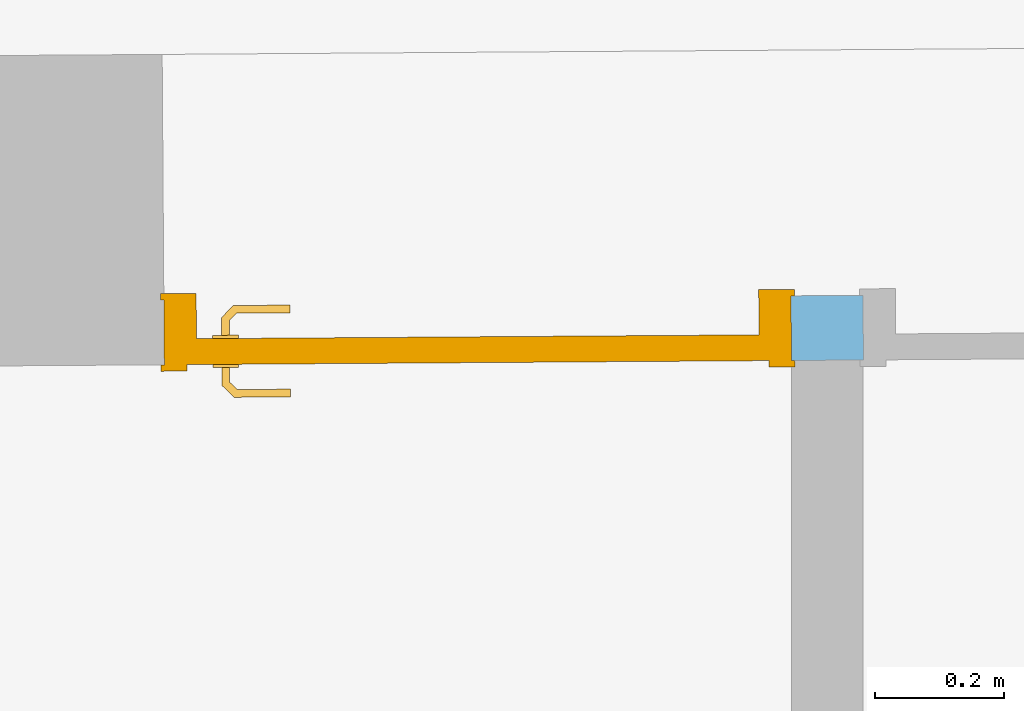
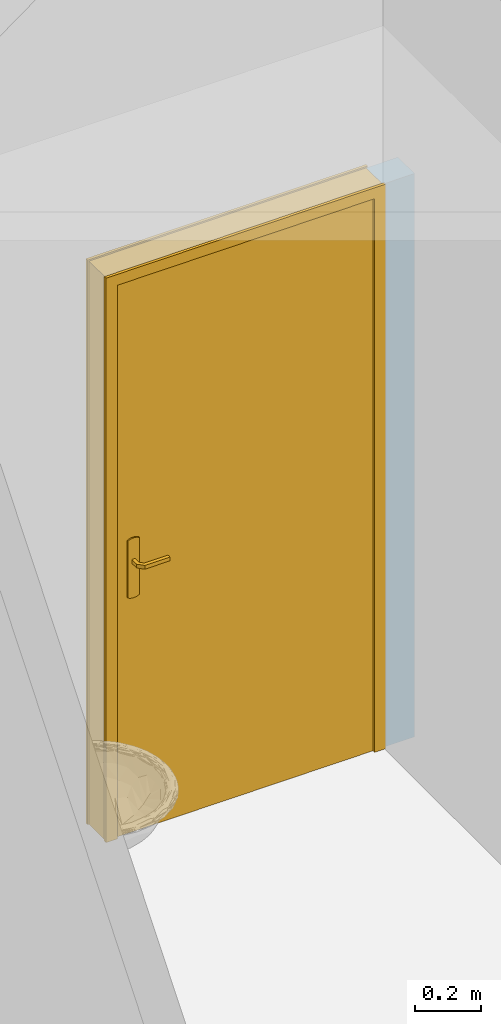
# One storey, part 41 of 128: 1 door, 2 openings, plus 1 element that does not belong to this part.
"""IFC2X3 building model written with IfcOpenShell, lengths in metres."""

import ifcopenshell
import ifcopenshell.guid

model = None  # the IFC model being written
_history = None  # IfcOwnerHistory: only IFC2X3 demands one
_inside = {}  # id of a spatial element -> (the spatial element, [elements in it])
_under = {}  # id of a project, library or spatial element -> (it, [spatial elements below it])
_declared = {}  # id of a project -> (the project, [libraries it declares])
_typed = {}  # id of a type object -> (the type object, [elements of that type])
_made_of = {}  # id of a material, layer set ... -> (it, [elements and type objects made of it])


def new_model(schema):
    """Start an empty IFC model of exactly this schema.

    Asked for "IFC4X3", IfcOpenShell would pick the latest addendum, in which some entities
    have other attributes; the version numbers below select the first issue.
    IFC2X3 requires an IfcOwnerHistory on every rooted entity: one is made here for all.
    """
    global model, _history
    if schema == "IFC4X3":
        model = ifcopenshell.file(schema_version=(4, 3, 0, 0))
    else:
        model = ifcopenshell.file(schema=schema)
    _inside.clear()
    _under.clear()
    _declared.clear()
    _typed.clear()
    _made_of.clear()
    _history = None
    if model.schema == "IFC2X3":
        org = make("IfcOrganization", Name="unknown")
        user = make(
            "IfcPersonAndOrganization",
            ThePerson=make("IfcPerson", FamilyName="unknown"),
            TheOrganization=org,
        )
        app = make(
            "IfcApplication",
            ApplicationDeveloper=org,
            Version="unknown",
            ApplicationFullName="unknown",
            ApplicationIdentifier="unknown",
        )
        _history = make(
            "IfcOwnerHistory",
            OwningUser=user,
            OwningApplication=app,
            ChangeAction="ADDED",
            CreationDate=0,
        )
    return model


def make(cls, **values):
    """One entity of the class cls with the attributes given. An attribute that is None is left unset."""
    return model.create_entity(
        cls, **{name: value for name, value in values.items() if value is not None}
    )


def entity(cls, *values):
    """Any entity or typed value of the class cls, its attributes in the order of the schema. None: left unset."""
    e = model.create_entity(cls)
    for i, value in enumerate(values):
        if value is not None:
            e[i] = value
    return e


def rooted(cls, **values):
    """An entity with a GlobalId (a new one), such as an element, a storey or a relation."""
    return make(cls, GlobalId=ifcopenshell.guid.new(), OwnerHistory=_history, **values)


def si_unit(unit_type, name, prefix=None):
    """IfcSIUnit, for example si_unit("LENGTHUNIT", "METRE", prefix="MILLI")."""
    return make("IfcSIUnit", UnitType=unit_type, Prefix=prefix, Name=name)


def converted_unit(unit_type, name, factor, base, dimensions=None, offset=None):
    """IfcConversionBasedUnit, such as the inch: factor (a typed value) times the base unit."""
    return make(
        "IfcConversionBasedUnit"
        if offset is None
        else "IfcConversionBasedUnitWithOffset",
        ConversionOffset=offset,
        Dimensions=None
        if dimensions is None
        else entity("IfcDimensionalExponents", *dimensions),
        UnitType=unit_type,
        Name=name,
        ConversionFactor=make(
            "IfcMeasureWithUnit", ValueComponent=factor, UnitComponent=base
        ),
    )


def derived_unit(unit_type, elements):
    """IfcDerivedUnit: a product of units, each with its exponent."""
    return make(
        "IfcDerivedUnit",
        Elements=[
            make("IfcDerivedUnitElement", Unit=unit, Exponent=power)
            for unit, power in elements
        ],
        UnitType=unit_type,
    )


def assignment(units):
    """IfcUnitAssignment: the units of a project."""
    return None if units is None else make("IfcUnitAssignment", Units=units)


def point(xyz):
    """IfcCartesianPoint."""
    return None if xyz is None else make("IfcCartesianPoint", Coordinates=xyz)


def direction(xyz):
    """IfcDirection."""
    return None if xyz is None else make("IfcDirection", DirectionRatios=xyz)


def frame(location, z_axis=None, x_axis=None):
    """IfcAxis2Placement3D, a coordinate frame: its origin and axes. An axis left out is left unset."""
    return make(
        "IfcAxis2Placement3D",
        Location=point(location),
        Axis=direction(z_axis),
        RefDirection=direction(x_axis),
    )


def frame_2d(location, x_axis=None):
    """IfcAxis2Placement2D, a coordinate frame in the plane: its origin and x axis."""
    return make(
        "IfcAxis2Placement2D", Location=point(location), RefDirection=direction(x_axis)
    )


def origin():
    """The frame at (0, 0, 0) with its axes left unset."""
    return frame((0.0, 0.0, 0.0))


def place(relative_to, where):
    """IfcLocalPlacement: puts the frame where relative to a parent placement (None: the world)."""
    return make(
        "IfcLocalPlacement", PlacementRelTo=relative_to, RelativePlacement=where
    )


def context(
    kind, dimensions, precision=None, world=None, true_north=None, identifier=None
):
    """IfcGeometricRepresentationContext, for example the 3D "Model" context."""
    return make(
        "IfcGeometricRepresentationContext",
        ContextIdentifier=identifier,
        ContextType=kind,
        CoordinateSpaceDimension=dimensions,
        Precision=precision,
        WorldCoordinateSystem=world,
        TrueNorth=true_north,
    )


def subcontext(parent, identifier, kind, view, scale=None):
    """IfcGeometricRepresentationSubContext, for example "Body" below "Model"."""
    return make(
        "IfcGeometricRepresentationSubContext",
        ContextIdentifier=identifier,
        ContextType=kind,
        ParentContext=parent,
        TargetScale=scale,
        TargetView=view,
    )


def project(units=None, contexts=None):
    """IfcProject with its units and contexts."""
    return rooted(
        "IfcProject",
        Name="project",
        RepresentationContexts=contexts,
        UnitsInContext=assignment(units),
    )


def spatial(cls, under=None, at=None, **own):
    """A site, building, storey or space (cls), placed at a placement, below another one or the project."""
    s = rooted(cls, ObjectPlacement=at, **own)
    if under is not None:
        _under.setdefault(under.id(), (under, []))[1].append(s)
    return s


def profile(cls, at=None, kind="AREA", **sizes):
    """A parametric profile (cls). Its sizes go by their IFC names, for example OverallWidth=200.0."""
    return make(cls, ProfileType=kind, Position=at, **sizes)


def rectangle(**sizes):
    """IfcRectangleProfileDef."""
    return profile("IfcRectangleProfileDef", **sizes)


def extrude(swept, where, along, depth):
    """IfcExtrudedAreaSolid: the profile swept, set in the frame where, extruded along a direction by depth."""
    return make(
        "IfcExtrudedAreaSolid",
        SweptArea=swept,
        Position=where,
        ExtrudedDirection=direction(along),
        Depth=depth,
    )


def faces_of(points, faces, orient=None, outer=None):
    """IfcFace entities. A face is a list of loops; a loop is a list of indices into points, from 0.

    orient and outer hold one flag for each loop. By default every Orientation is true, the
    first loop of a face is its IfcFaceOuterBound and the others are IfcFaceBound.
    """
    made = []
    for i, loops in enumerate(faces):
        bounds = []
        for j, loop in enumerate(loops):
            is_outer = j == 0 if outer is None else outer[i][j]
            bounds.append(
                make(
                    "IfcFaceOuterBound" if is_outer else "IfcFaceBound",
                    Bound=make("IfcPolyLoop", Polygon=[points[k] for k in loop]),
                    Orientation=True if orient is None else orient[i][j],
                )
            )
        made.append(make("IfcFace", Bounds=bounds))
    return made


def faceted_brep(points, faces, orient=None, outer=None, voids=None):
    """IfcFacetedBrep: a solid bounded by flat faces; with voids (closed shells), ...WithVoids."""
    shared = [point(p) for p in points]
    hull = make("IfcClosedShell", CfsFaces=faces_of(shared, faces, orient, outer))
    if voids is None:
        return make("IfcFacetedBrep", Outer=hull)
    return make(
        "IfcFacetedBrepWithVoids",
        Outer=hull,
        Voids=[
            make(cls, CfsFaces=faces_of(shared, fs, o, b)) for cls, fs, o, b in voids
        ],
    )


def shape(context_of_items, identifier, shape_type, items):
    """IfcShapeRepresentation: the items that make up one representation, for example the "Body"."""
    return make(
        "IfcShapeRepresentation",
        ContextOfItems=context_of_items,
        RepresentationIdentifier=identifier,
        RepresentationType=shape_type,
        Items=items,
    )


def source(mapping_origin, context_of_items, identifier, shape_type, items):
    """IfcRepresentationMap: a shape defined once, which mapped items show again and again."""
    return make(
        "IfcRepresentationMap",
        MappingOrigin=mapping_origin,
        MappedRepresentation=shape(context_of_items, identifier, shape_type, items),
    )


def transform(
    local_origin,
    x_axis=None,
    y_axis=None,
    z_axis=None,
    scale=None,
    scale2=None,
    scale3=None,
    uniform=True,
):
    """IfcCartesianTransformationOperator3D, or its non-uniform kind. x_axis, y_axis, z_axis: its Axis1, 2, 3."""
    if uniform:
        return make(
            "IfcCartesianTransformationOperator3D",
            Axis1=direction(x_axis),
            Axis2=direction(y_axis),
            LocalOrigin=point(local_origin),
            Scale=scale,
            Axis3=direction(z_axis),
        )
    return make(
        "IfcCartesianTransformationOperator3DnonUniform",
        Axis1=direction(x_axis),
        Axis2=direction(y_axis),
        LocalOrigin=point(local_origin),
        Scale=scale,
        Axis3=direction(z_axis),
        Scale2=scale2,
        Scale3=scale3,
    )


def mapped(mapping_source, mapping_target):
    """IfcMappedItem: shows the shape of a source again, moved by a transform."""
    return make(
        "IfcMappedItem", MappingSource=mapping_source, MappingTarget=mapping_target
    )


def material(Name=None, Category=None):
    """IfcMaterial."""
    return make("IfcMaterial", Name=Name, Category=Category)


def layer(
    of_material, thickness, ventilated=None, Name=None, Category=None, Priority=None
):
    """IfcMaterialLayer: one layer of a wall or slab, of a material (None: an air gap)."""
    return make(
        "IfcMaterialLayer",
        Material=of_material,
        LayerThickness=thickness,
        IsVentilated=ventilated,
        Name=Name,
        Category=Category,
        Priority=Priority,
    )


def layer_set(layers, Name=None):
    """IfcMaterialLayerSet."""
    return make("IfcMaterialLayerSet", MaterialLayers=layers, LayerSetName=Name)


def layer_usage(for_layer_set, set_direction, sense, offset, extent=None):
    """IfcMaterialLayerSetUsage: how a layer set lies in its element."""
    return make(
        "IfcMaterialLayerSetUsage",
        ForLayerSet=for_layer_set,
        LayerSetDirection=set_direction,
        DirectionSense=sense,
        OffsetFromReferenceLine=offset,
        ReferenceExtent=extent,
    )


def made_of(thing, what):
    """Note that an element or type object is made of a material, layer set ...; save() writes the relation."""
    if what is not None:
        _made_of.setdefault(what.id(), (what, []))[1].append(thing)
    return thing


def type_object(cls, material=None, **own):
    """A type object (cls), such as IfcWallType, which elements share."""
    return made_of(rooted(cls, **own), material)


def type_shapes(of_type, sources):
    """Give a type object the sources (RepresentationMaps) that its elements show as mapped items."""
    of_type.RepresentationMaps = sources


def element(
    cls,
    number,
    at=None,
    inside=None,
    cuts=None,
    type_object=None,
    material=None,
    context=None,
    identifier="Body",
    shape_type=None,
    held_by="IfcProductDefinitionShape",
    body=None,
    shapes=None,
    **own,
):
    """One element of the class cls, such as IfcWall. Its Tag is "e" and its number.

    at: its placement. inside: the storey or other place that contains it. cuts: it is an
    opening in that element (IfcRelVoidsElement). A single representation is given by context,
    identifier, shape_type and body (its items); several are given by shapes. held_by: the class
    of the entity that holds the representations. save() writes the other relations.
    """
    e = rooted(cls, Tag="e%d" % number, ObjectPlacement=at, **own)
    if body is not None:
        shapes = [shape(context, identifier, shape_type, body)]
    if shapes is not None:
        e.Representation = make(held_by, Representations=shapes)
    if inside is not None:
        _inside.setdefault(inside.id(), (inside, []))[1].append(e)
    if cuts is not None:
        rooted(
            "IfcRelVoidsElement", RelatingBuildingElement=cuts, RelatedOpeningElement=e
        )
    if type_object is not None:
        _typed.setdefault(type_object.id(), (type_object, []))[1].append(e)
    return made_of(e, material)


def fill(opening, filler):
    """IfcRelFillsElement: the door or window that sits in an opening."""
    return rooted(
        "IfcRelFillsElement",
        RelatingOpeningElement=opening,
        RelatedBuildingElement=filler,
    )


def aggregate(whole, parts):
    """IfcRelAggregates: a whole, such as a stair, and the parts it consists of."""
    return rooted("IfcRelAggregates", RelatingObject=whole, RelatedObjects=parts)


def save(model, path):
    """Write the relations noted so far, then the file.

    IfcRelAggregates (storeys below a building ...), IfcRelContainedInSpatialStructure (elements
    in a storey), IfcRelDefinesByType, IfcRelAssociatesMaterial and IfcRelDeclares: one each for
    every whole, place, type object, material and project.
    """
    for whole, parts in _under.values():
        aggregate(whole, parts)
    for where, things in _inside.values():
        rooted(
            "IfcRelContainedInSpatialStructure",
            RelatedElements=things,
            RelatingStructure=where,
        )
    for kind, things in _typed.values():
        rooted("IfcRelDefinesByType", RelatedObjects=things, RelatingType=kind)
    for what, things in _made_of.values():
        rooted("IfcRelAssociatesMaterial", RelatedObjects=things, RelatingMaterial=what)
    for by, libraries in _declared.values():
        rooted("IfcRelDeclares", RelatingContext=by, RelatedDefinitions=libraries)
    model.write(path)


model = new_model("IFC2X3")

# Units and contexts
model_context = context("Model", 3, precision=1e-05, world=origin(), true_north=direction((6.123031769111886e-17, 1.0)))
body_context = subcontext(model_context, "Body", "Model", "MODEL_VIEW")
ifc_project = project(units=[si_unit("LENGTHUNIT", "METRE"), si_unit("AREAUNIT", "SQUARE_METRE"), converted_unit("PLANEANGLEUNIT", "DEGREE", entity("IfcPlaneAngleMeasure", 0.017453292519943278), si_unit("PLANEANGLEUNIT", "RADIAN"), dimensions=[0, 0, 0, 0, 0, 0, 0]), derived_unit("THERMALTRANSMITTANCEUNIT", [(si_unit("MASSUNIT", "GRAM", prefix="KILO"), 1), (si_unit("THERMODYNAMICTEMPERATUREUNIT", "KELVIN"), -1), (si_unit("TIMEUNIT", "SECOND"), -3)])], contexts=[model_context])

# Site, building, storey
site_placement = place(None, origin())
site = spatial("IfcSite", under=ifc_project, at=site_placement, Name="Default", CompositionType="ELEMENT")
building_placement = place(site_placement, origin())
building = spatial("IfcBuilding", under=site, at=building_placement, CompositionType="ELEMENT")
storey_placement = place(building_placement, origin())
storey = spatial("IfcBuildingStorey", under=building, at=storey_placement, Name="00_RDC CAF", CompositionType="ELEMENT", Elevation=2.4982504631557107e-13)

# Wall, openings, door
ifc_material_1 = material(Name="ARC - Cloison")
ifc_layer = layer(ifc_material_1, 0.1)
ifc_layer_set = layer_set([ifc_layer], Name="Mur de base:Cl_Platre_100mm")
ifc_layer_usage = layer_usage(ifc_layer_set, "AXIS2", "NEGATIVE", 0.05)
wall_type = type_object("IfcWallType", Name="Mur de base:Cl_Platre_100mm", PredefinedType="STANDARD", material=ifc_layer_set)
wall_placement = place(storey_placement, frame((28.64714088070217, 129.95834739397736, 0.0), z_axis=(0.0, 0.0, 1.0), x_axis=(0.9999764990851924, 0.006855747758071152, 0.0)))
wall = element("IfcWallStandardCase", 1, at=wall_placement, inside=storey, type_object=wall_type, material=ifc_layer_usage, Name="Mur de base:Cl_Platre_100mm", ObjectType="Mur de base:Cl_Platre_100mm", context=body_context, shape_type="SweptSolid", body=[
    extrude(rectangle(XDim=2.0512205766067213, YDim=0.09999999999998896, at=frame_2d((0.05561028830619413, -2.185751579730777e-15), x_axis=(1.0, 0.0))), origin(), (0.0, 0.0, 1.0), 2.074999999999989),
])
opening_1_placement = place(wall_placement, frame((1.0812205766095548, 0.05000000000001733, 0.0)))
element("IfcOpeningElement", 2, at=opening_1_placement, cuts=wall, Name="P_Recouvrement_Simple:P_Int_Simple_Pleine_900x2040mm:1", ObjectType="Opening", context=body_context, shape_type="SweptSolid", body=[
    extrude(rectangle(XDim=2.07500000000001, YDim=0.9699999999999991, at=frame_2d((1.037500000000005, 0.48499999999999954), x_axis=(1.0, 0.0))), frame((0.0, 0.0, 0.0), z_axis=(0.0, -1.0, 0.0), x_axis=(0.0, 0.0, 1.0)), (0.0, 0.0, 1.0), 0.1),
])
opening_2_placement = place(wall_placement, frame((0.0, 0.05000000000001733, 0.0)))
opening_2 = element("IfcOpeningElement", 3, at=opening_2_placement, cuts=wall, Name="P_Recouvrement_Simple:P_Int_Simple_Pleine_900x2040mm:1", ObjectType="Opening", context=body_context, shape_type="SweptSolid", body=[
    extrude(rectangle(XDim=2.07500000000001, YDim=0.9699999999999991, at=frame_2d((1.037500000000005, 0.48499999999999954), x_axis=(1.0, 0.0))), frame((0.0, 0.0, 0.0), z_axis=(0.0, -1.0, 0.0), x_axis=(0.0, 0.0, 1.0)), (0.0, 0.0, 1.0), 0.1),
])
ifc_material_2 = material(Name="ARC - M.In - Blanc")
door_style = type_object("IfcDoorStyle", Name="P_Recouvrement_Simple:P_Int_Simple_Pleine_900x2040mm", ConstructionType="NOTDEFINED", OperationType="NOTDEFINED", ParameterTakesPrecedence=False, Sizeable=False, material=ifc_material_2)
shared_shape = source(origin(), body_context, "Body", "Brep", [
    faceted_brep([(0.09297470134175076, 0.04499999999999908, 1.0077804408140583), (0.08899999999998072, 0.04499999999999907, 1.0069999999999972), (0.0889999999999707, 0.04499999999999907, 0.9929999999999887), (0.0929747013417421, 0.04499999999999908, 0.9922195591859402), (0.09702529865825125, 0.0449999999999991, 0.9922195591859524), (0.10100000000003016, 0.04499999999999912, 0.9930000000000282), (0.10100000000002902, 0.04499999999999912, 1.006999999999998), (0.09702529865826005, 0.0449999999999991, 1.0077804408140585), (0.10100000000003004, 0.06748520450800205, 0.9930000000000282), (0.10100000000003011, 0.06748520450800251, 1.006999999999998), (0.09702529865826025, 0.06913157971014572, 1.0077804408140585), (0.11083890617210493, 0.08294518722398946, 1.0077804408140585), (0.10916109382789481, 0.08699578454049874, 1.0077804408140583), (0.09297470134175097, 0.07080939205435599, 1.0077804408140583), (0.08899999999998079, 0.07245576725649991, 1.0069999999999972), (0.08899999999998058, 0.07245576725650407, 0.9929999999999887), (0.09297470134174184, 0.07080939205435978, 0.9922195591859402), (0.10916109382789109, 0.08699578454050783, 0.9922195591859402), (0.11083890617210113, 0.08294518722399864, 0.9922195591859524), (0.09702529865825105, 0.06913157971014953, 0.9922195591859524), (0.11248528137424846, 0.07897048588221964, 0.9930000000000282), (0.11248528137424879, 0.07897048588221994, 1.006999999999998), (0.10751471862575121, 0.09097048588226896, 1.0069999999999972), (0.10751471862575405, 0.09097048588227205, 0.9929999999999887), (0.19504578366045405, 0.07897048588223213, 0.9930000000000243), (0.19504578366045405, 0.08294518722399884, 0.9922195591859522), (0.19504578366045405, 0.08699578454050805, 0.99221955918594), (0.19504578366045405, 0.09097048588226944, 0.9929999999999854), (0.19504578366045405, 0.09097048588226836, 1.0069999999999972), (0.1950457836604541, 0.08699578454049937, 1.007780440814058), (0.1950457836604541, 0.08294518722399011, 1.0077804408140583), (0.1950457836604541, 0.0789704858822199, 1.0069999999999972), (0.15376552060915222, 0.07897048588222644, 0.9930000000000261), (0.1537655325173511, 0.07897048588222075, 1.0069999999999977), (0.1529423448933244, 0.08497048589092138, 1.0078786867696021), (0.1474452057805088, 0.09097048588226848, 1.0069999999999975), (0.14744520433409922, 0.09097048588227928, 0.9929999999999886), (0.15294234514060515, 0.08497048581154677, 0.9921213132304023)], [[[0, 1, 2, 3, 4, 5, 6, 7]], [[6, 5, 8, 9]], [[9, 10, 7, 6]], [[10, 11, 12, 13, 0, 7]], [[13, 14, 1, 0]], [[2, 1, 14, 15]], [[15, 16, 3, 2]], [[16, 17, 18, 19, 4, 3]], [[19, 8, 5, 4]], [[9, 8, 20, 21]], [[21, 11, 10, 9]], [[12, 22, 14, 13]], [[15, 14, 22, 23]], [[23, 17, 16, 15]], [[18, 20, 8, 19]], [[24, 25, 26, 27, 28, 29, 30, 31]], [[21, 20, 32, 24, 31, 33]], [[33, 30, 34]], [[35, 34, 29]], [[21, 33, 11]], [[33, 31, 30]], [[28, 35, 29]], [[22, 12, 35]], [[35, 12, 34]], [[12, 11, 34]], [[11, 33, 34]], [[29, 34, 30]], [[22, 35, 28, 27, 36, 23]], [[36, 26, 37]], [[27, 26, 36]], [[17, 23, 36]], [[37, 32, 18]], [[20, 18, 32]], [[32, 25, 24]], [[26, 25, 37]], [[25, 32, 37]], [[17, 36, 37]], [[17, 37, 18]]]),
    faceted_brep([(0.09297470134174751, -0.0050000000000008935, 1.0077804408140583), (0.0970252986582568, -0.005000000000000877, 1.0077804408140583), (0.10100000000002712, -0.00500000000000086, 1.006999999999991), (0.10100000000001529, -0.00500000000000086, 0.9930000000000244), (0.09702529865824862, -0.005000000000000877, 0.9922195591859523), (0.0929747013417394, -0.0050000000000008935, 0.9922195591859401), (0.08899999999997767, -0.005000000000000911, 0.9929999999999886), (0.08899999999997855, -0.005000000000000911, 1.0069999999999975), (0.08899999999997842, -0.03265095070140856, 1.0069999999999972), (0.09297470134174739, -0.0310045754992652, 1.0077804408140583), (0.10902358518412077, -0.0470534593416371, 1.0077804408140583), (0.11070139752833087, -0.04300286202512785, 1.0077804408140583), (0.0970252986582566, -0.029326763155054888, 1.0077804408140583), (0.10100000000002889, -0.027680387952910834, 1.0069999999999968), (0.10100000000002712, -0.027680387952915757, 0.9930000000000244), (0.09702529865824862, -0.02932676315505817, 0.9922195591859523), (0.11070139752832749, -0.04300286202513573, 0.9922195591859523), (0.10902358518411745, -0.04705345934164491, 0.9922195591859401), (0.09297470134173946, -0.03100457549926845, 0.9922195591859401), (0.08899999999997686, -0.03265095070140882, 0.9929999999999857), (0.10737720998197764, -0.05102816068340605, 1.0069999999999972), (0.11234777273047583, -0.03902816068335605, 1.0069999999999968), (0.11234777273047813, -0.03902816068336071, 0.9930000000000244), (0.1073772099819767, -0.051028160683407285, 0.9929999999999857), (0.19501864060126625, -0.05102816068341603, 0.9929999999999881), (0.19501864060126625, -0.04705345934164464, 0.9922195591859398), (0.19501864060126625, -0.04300286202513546, 0.992219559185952), (0.19501864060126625, -0.03902816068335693, 0.9930000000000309), (0.19501864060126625, -0.03902816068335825, 1.0069999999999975), (0.1950186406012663, -0.04300286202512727, 1.007780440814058), (0.1950186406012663, -0.047053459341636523, 1.0077804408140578), (0.1950186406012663, -0.051028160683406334, 1.0069999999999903), (0.147307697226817, -0.051028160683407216, 1.0069999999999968), (0.15286001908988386, -0.04502816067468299, 1.007878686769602), (0.1536832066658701, -0.03902816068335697, 1.0069999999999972), (0.153683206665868, -0.03902816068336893, 0.9930000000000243), (0.15286001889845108, -0.045028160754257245, 0.9921213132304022), (0.14730770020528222, -0.05102816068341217, 0.992999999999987)], [[[0, 1, 2, 3, 4, 5, 6, 7]], [[8, 9, 0, 7]], [[9, 10, 11, 12, 1, 0]], [[12, 13, 2, 1]], [[3, 2, 13, 14]], [[14, 15, 4, 3]], [[15, 16, 17, 18, 5, 4]], [[18, 19, 6, 5]], [[7, 6, 19, 8]], [[20, 10, 9, 8]], [[11, 21, 13, 12]], [[14, 13, 21, 22]], [[22, 16, 15, 14]], [[17, 23, 19, 18]], [[8, 19, 23, 20]], [[24, 25, 26, 27, 28, 29, 30, 31]], [[32, 30, 33]], [[31, 30, 32]], [[10, 20, 32]], [[33, 34, 11]], [[21, 11, 34]], [[34, 29, 28]], [[30, 29, 33]], [[29, 34, 33]], [[10, 32, 33]], [[10, 33, 11]], [[22, 21, 34, 28, 27, 35]], [[35, 26, 36]], [[37, 36, 25]], [[22, 35, 16]], [[35, 27, 26]], [[24, 37, 25]], [[23, 17, 37]], [[37, 17, 36]], [[17, 16, 36]], [[16, 35, 36]], [[25, 36, 26]], [[20, 23, 37, 24, 31, 32]]]),
    faceted_brep([(0.10535276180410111, 0.039999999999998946, 0.866003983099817), (0.11500000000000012, 0.03999999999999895, 0.8700000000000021), (0.11499999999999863, 0.03999999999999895, 1.0800000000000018), (0.10535276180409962, 0.039999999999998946, 1.083996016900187), (0.09499999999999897, 0.039999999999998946, 1.0853589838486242), (0.08464723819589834, 0.039999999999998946, 1.0839960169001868), (0.07499999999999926, 0.03999999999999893, 1.0800000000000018), (0.07500000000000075, 0.03999999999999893, 0.8700000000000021), (0.08464723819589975, 0.039999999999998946, 0.8660039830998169), (0.0950000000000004, 0.039999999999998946, 0.8646410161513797), (0.10535276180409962, 0.04499999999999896, 1.083996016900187), (0.11499999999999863, 0.04499999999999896, 1.0800000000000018), (0.11500000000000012, 0.04499999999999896, 0.8700000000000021), (0.10535276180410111, 0.04499999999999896, 0.866003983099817), (0.0950000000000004, 0.04499999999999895, 0.8646410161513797), (0.08464723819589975, 0.044999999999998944, 0.8660039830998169), (0.07499999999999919, 0.044999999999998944, 0.870000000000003), (0.07499999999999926, 0.044999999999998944, 1.0800000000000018), (0.08464723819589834, 0.044999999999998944, 1.0839960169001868), (0.09499999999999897, 0.04499999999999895, 1.0853589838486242)], [[[0, 1, 2, 3, 4, 5, 6, 7, 8, 9]], [[10, 11, 12, 13, 14, 15, 16, 17, 18, 19]], [[11, 10, 3, 2]], [[3, 10, 19, 4]], [[19, 18, 5, 4]], [[18, 17, 6, 5]], [[7, 6, 17, 16]], [[16, 15, 8, 7]], [[8, 15, 14, 9]], [[14, 13, 0, 9]], [[13, 12, 1, 0]], [[2, 1, 12, 11]]]),
    faceted_brep([(0.10535276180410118, -0.005000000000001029, 0.866003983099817), (0.11500000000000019, -0.005000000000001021, 0.8700000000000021), (0.11499999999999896, -0.005000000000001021, 1.0800000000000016), (0.10535276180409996, -0.005000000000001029, 1.0839960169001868), (0.09499999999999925, -0.005000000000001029, 1.0853589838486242), (0.0846472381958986, -0.0050000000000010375, 1.083996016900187), (0.07499999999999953, -0.0050000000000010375, 1.0800000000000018), (0.07500000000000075, -0.0050000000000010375, 0.8700000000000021), (0.08464723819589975, -0.0050000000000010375, 0.866003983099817), (0.09500000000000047, -0.005000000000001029, 0.8646410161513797), (0.10535276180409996, 0.0, 1.0839960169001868), (0.1149999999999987, 0.0, 1.0800000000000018), (0.11500000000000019, 0.0, 0.8700000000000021), (0.10535276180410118, 0.0, 0.866003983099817), (0.09500000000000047, 0.0, 0.8646410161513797), (0.08464723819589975, 0.0, 0.866003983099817), (0.07499999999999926, 0.0, 0.8700000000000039), (0.07499999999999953, 0.0, 1.0800000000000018), (0.0846472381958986, 0.0, 1.083996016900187), (0.09499999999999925, 0.0, 1.0853589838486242)], [[[0, 1, 2, 3, 4, 5, 6, 7, 8, 9]], [[10, 11, 12, 13, 14, 15, 16, 17, 18, 19]], [[16, 15, 8, 7]], [[8, 15, 14, 9]], [[14, 13, 0, 9]], [[13, 12, 1, 0]], [[2, 1, 12, 11]], [[11, 10, 3, 2]], [[3, 10, 19, 4]], [[19, 18, 5, 4]], [[18, 17, 6, 5]], [[7, 6, 17, 16]]]),
    faceted_brep([(0.03499999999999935, 0.0400000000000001, 2.04), (0.9349999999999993, 0.0400000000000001, 2.04), (0.9349999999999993, 0.0400000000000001, 0.0), (0.03499999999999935, 0.0400000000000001, 0.0), (0.03499999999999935, 0.0, 2.04), (0.03499999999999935, 0.0, 0.0), (0.9349999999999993, 0.0, 0.0), (0.9349999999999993, 0.0, 2.04)], [[[0, 1, 2, 3]], [[4, 5, 6, 7]], [[1, 0, 4, 7]], [[2, 1, 7, 6]], [[3, 2, 6, 5]], [[0, 3, 5, 4]]]),
    faceted_brep([(0.05, 0.04000000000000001, 0.0), (0.03499999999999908, 0.04000000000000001, 0.0), (0.03499999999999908, -0.009999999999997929, 0.0), (-0.00499999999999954, -0.009999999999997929, 0.0), (-0.00499999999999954, 0.0, 0.0), (0.0, 0.0, 0.0), (0.0, 0.1, 0.0), (-0.00499999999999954, 0.1, 0.0), (-0.00499999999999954, 0.1100000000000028, 0.0), (0.05, 0.1100000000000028, 0.0), (0.05, 0.04000000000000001, 2.0250000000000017), (0.9199999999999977, 0.04000000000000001, 2.0250000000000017), (0.9199999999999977, 0.04000000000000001, 0.0), (0.9349999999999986, 0.04000000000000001, 0.0), (0.9349999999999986, 0.04000000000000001, 2.0400000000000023), (0.03499999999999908, 0.04000000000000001, 2.0400000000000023), (0.03499999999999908, -0.009999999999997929, 2.0400000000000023), (0.9349999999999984, -0.009999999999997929, 2.0400000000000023), (0.9349999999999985, -0.009999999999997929, 0.0), (0.9749999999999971, -0.009999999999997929, 0.0), (0.9749999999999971, -0.009999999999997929, 2.080000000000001), (-0.004999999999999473, -0.009999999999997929, 2.080000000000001), (-0.004999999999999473, 0.0, 2.080000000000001), (0.974999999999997, 0.0, 2.080000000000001), (0.9749999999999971, 0.0, 0.0), (0.9699999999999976, 0.0, 0.0), (0.9699999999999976, 0.0, 2.0750000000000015), (0.0, 0.0, 2.075000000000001), (0.0, 0.1, 2.0750000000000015), (0.9699999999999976, 0.1, 2.0750000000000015), (0.9699999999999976, 0.1, 0.0), (0.9749999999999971, 0.1, 0.0), (0.9749999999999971, 0.1, 2.080000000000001), (-0.004999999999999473, 0.1, 2.080000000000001), (-0.004999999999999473, 0.1100000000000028, 2.080000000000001), (0.974999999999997, 0.1100000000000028, 2.080000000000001), (0.9749999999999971, 0.1100000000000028, 0.0), (0.9199999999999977, 0.1100000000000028, 0.0), (0.9199999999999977, 0.1100000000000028, 2.0250000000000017), (0.05000000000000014, 0.1100000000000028, 2.0250000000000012)], [[[0, 1, 2, 3, 4, 5, 6, 7, 8, 9]], [[1, 0, 10, 11, 12, 13, 14, 15]], [[2, 1, 15, 16]], [[3, 2, 16, 17, 18, 19, 20, 21]], [[4, 3, 21, 22]], [[5, 4, 22, 23, 24, 25, 26, 27]], [[6, 5, 27, 28]], [[7, 6, 28, 29, 30, 31, 32, 33]], [[8, 7, 33, 34]], [[9, 8, 34, 35, 36, 37, 38, 39]], [[0, 9, 39, 10]], [[11, 38, 37, 12]], [[12, 37, 36, 31, 30, 25, 24, 19, 18, 13]], [[17, 14, 13, 18]], [[23, 20, 19, 24]], [[29, 26, 25, 30]], [[35, 32, 31, 36]], [[16, 15, 14, 17]], [[22, 21, 20, 23]], [[28, 27, 26, 29]], [[34, 33, 32, 35]], [[10, 39, 38, 11]]]),
])
type_shapes(door_style, [shared_shape])
door_placement = place(opening_2_placement, frame((-0.9699999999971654, -0.10000000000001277, 0.0)))
door = element("IfcDoor", 4, at=door_placement, inside=storey, type_object=door_style, material=ifc_material_2, Name="P_Recouvrement_Simple:P_Int_Simple_Pleine_900x2040mm", ObjectType="P_Recouvrement_Simple:P_Int_Simple_Pleine_900x2040mm", OverallHeight=2.07500000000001, OverallWidth=0.9699999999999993, context=body_context, shape_type="MappedRepresentation", body=[
    mapped(shared_shape, transform((0.0, 0.0, 0.0), scale=1.0)),
])
fill(opening_2, door)

save(model, "model.ifc")
